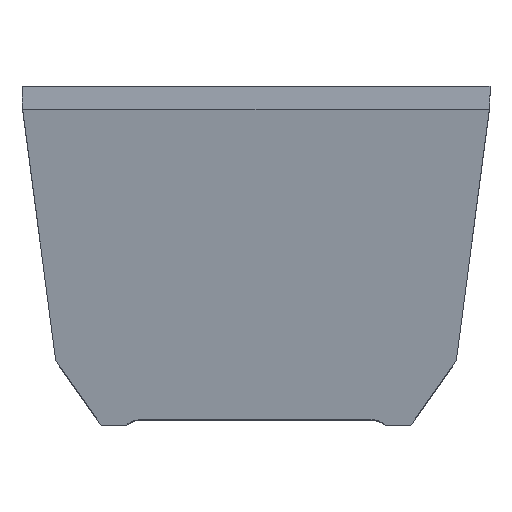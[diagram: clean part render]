
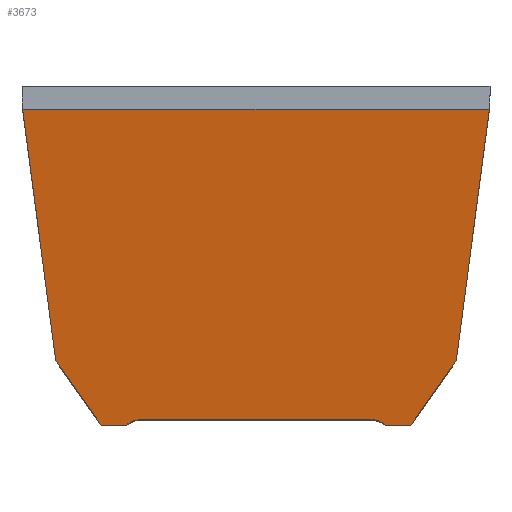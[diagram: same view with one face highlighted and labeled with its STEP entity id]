
A CAD part, top view. The second image highlights one B-rep face of the part: STEP entity #3673.
In plain terms, the highlighted planar face has unit normal (0, -0.147, 0.989).
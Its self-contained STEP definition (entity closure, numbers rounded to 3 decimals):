
#711 = EDGE_LOOP ( 'NONE', ( #2078, #2077, #2076, #2075, #2074, #2073, #2072, #2071, #2070, #2069, #2068, #2067 ) ) ;
#999 = EDGE_CURVE ( 'NONE', #2786, #2473, #2059, .T. ) ;
#1010 = AXIS2_PLACEMENT_3D ( 'NONE', #1662, #1655, #1654 ) ;
#1020 = EDGE_CURVE ( 'NONE', #2341, #2337, #1773, .T. ) ;
#1021 = EDGE_CURVE ( 'NONE', #2472, #2403, #2045, .T. ) ;
#1025 = EDGE_CURVE ( 'NONE', #2660, #2572, #2042, .T. ) ;
#1027 = EDGE_CURVE ( 'NONE', #2500, #2473, #2040, .T. ) ;
#1045 = EDGE_CURVE ( 'NONE', #2572, #2522, #1779, .T. ) ;
#1050 = EDGE_CURVE ( 'NONE', #2403, #2602, #2029, .T. ) ;
#1118 = EDGE_CURVE ( 'NONE', #2472, #2522, #1973, .T. ) ;
#1120 = EDGE_CURVE ( 'NONE', #2500, #2660, #1774, .T. ) ;
#1192 = EDGE_CURVE ( 'NONE', #2602, #2641, #1777, .T. ) ;
#1217 = EDGE_CURVE ( 'NONE', #2641, #2341, #1323, .T. ) ;
#1240 = EDGE_CURVE ( 'NONE', #2337, #2786, #1299, .T. ) ;
#1298 = VECTOR ( 'NONE', #3075, 1000. ) ;
#1299 = LINE ( 'NONE', #3076, #1298 ) ;
#1322 = VECTOR ( 'NONE', #3109, 1000. ) ;
#1323 = LINE ( 'NONE', #3110, #1322 ) ;
#1654 = DIRECTION ( 'NONE',  ( 0., -0.989, -0.147 ) ) ;
#1655 = DIRECTION ( 'NONE',  ( 0., 0.147, -0.989 ) ) ;
#1662 = CARTESIAN_POINT ( 'NONE',  ( -202.173, 56.725, 45.25 ) ) ;
#1666 = PLANE ( 'NONE',  #1010 ) ;
#1773 =( BOUNDED_CURVE ( )  B_SPLINE_CURVE ( 3, ( #2181, #2145, #2135, #2130 ),
 .UNSPECIFIED., .F., .F. ) 
 B_SPLINE_CURVE_WITH_KNOTS ( ( 4, 4 ),
 ( 1.667, 1.702 ),
 .UNSPECIFIED. ) 
 CURVE ( )  GEOMETRIC_REPRESENTATION_ITEM ( )  RATIONAL_B_SPLINE_CURVE ( ( 1., 1., 1., 1. ) ) 
 REPRESENTATION_ITEM ( '' )  );
#1774 =( BOUNDED_CURVE ( )  B_SPLINE_CURVE ( 3, ( #3207, #3203, #3199, #3198 ),
 .UNSPECIFIED., .F., .T. ) 
 B_SPLINE_CURVE_WITH_KNOTS ( ( 4, 4 ),
 ( 5.61, 6.283 ),
 .UNSPECIFIED. ) 
 CURVE ( )  GEOMETRIC_REPRESENTATION_ITEM ( )  RATIONAL_B_SPLINE_CURVE ( ( 1., 0.963, 0.963, 1. ) ) 
 REPRESENTATION_ITEM ( '' )  );
#1777 =( BOUNDED_CURVE ( )  B_SPLINE_CURVE ( 3, ( #3142, #3136, #3135, #3134 ),
 .UNSPECIFIED., .F., .T. ) 
 B_SPLINE_CURVE_WITH_KNOTS ( ( 4, 4 ),
 ( 4.581, 4.616 ),
 .UNSPECIFIED. ) 
 CURVE ( )  GEOMETRIC_REPRESENTATION_ITEM ( )  RATIONAL_B_SPLINE_CURVE ( ( 1., 1., 1., 1. ) ) 
 REPRESENTATION_ITEM ( '' )  );
#1779 =( BOUNDED_CURVE ( )  B_SPLINE_CURVE ( 3, ( #3276, #3272, #3271, #3270 ),
 .UNSPECIFIED., .F., .F. ) 
 B_SPLINE_CURVE_WITH_KNOTS ( ( 4, 4 ),
 ( 0., 0.673 ),
 .UNSPECIFIED. ) 
 CURVE ( )  GEOMETRIC_REPRESENTATION_ITEM ( )  RATIONAL_B_SPLINE_CURVE ( ( 1., 0.963, 0.963, 1. ) ) 
 REPRESENTATION_ITEM ( '' )  );
#1890 = FACE_OUTER_BOUND ( 'NONE', #711, .T. ) ;
#1972 = VECTOR ( 'NONE', #3208, 1000. ) ;
#1973 = LINE ( 'NONE', #3209, #1972 ) ;
#2020 = VECTOR ( 'NONE', #3265, 1000. ) ;
#2029 = LINE ( 'NONE', #3268, #2020 ) ;
#2036 = VECTOR ( 'NONE', #3286, 1000. ) ;
#2040 = LINE ( 'NONE', #3289, #2036 ) ;
#2042 = LINE ( 'NONE', #3291, #2044 ) ;
#2044 = VECTOR ( 'NONE', #3290, 1000. ) ;
#2045 = LINE ( 'NONE', #2155, #2046 ) ;
#2046 = VECTOR ( 'NONE', #3297, 1000. ) ;
#2059 = LINE ( 'NONE', #2265, #2065 ) ;
#2065 = VECTOR ( 'NONE', #2260, 1000. ) ;
#2067 = ORIENTED_EDGE ( 'NONE', *, *, #1192, .F. ) ;
#2068 = ORIENTED_EDGE ( 'NONE', *, *, #1217, .F. ) ;
#2069 = ORIENTED_EDGE ( 'NONE', *, *, #1020, .F. ) ;
#2070 = ORIENTED_EDGE ( 'NONE', *, *, #1240, .F. ) ;
#2071 = ORIENTED_EDGE ( 'NONE', *, *, #999, .F. ) ;
#2072 = ORIENTED_EDGE ( 'NONE', *, *, #1027, .T. ) ;
#2073 = ORIENTED_EDGE ( 'NONE', *, *, #1120, .F. ) ;
#2074 = ORIENTED_EDGE ( 'NONE', *, *, #1025, .F. ) ;
#2075 = ORIENTED_EDGE ( 'NONE', *, *, #1045, .F. ) ;
#2076 = ORIENTED_EDGE ( 'NONE', *, *, #1118, .T. ) ;
#2077 = ORIENTED_EDGE ( 'NONE', *, *, #1021, .F. ) ;
#2078 = ORIENTED_EDGE ( 'NONE', *, *, #1050, .F. ) ;
#2130 = CARTESIAN_POINT ( 'NONE',  ( 44.993, 55.7, 45.098 ) ) ;
#2135 = CARTESIAN_POINT ( 'NONE',  ( 45.038, 56.041, 45.149 ) ) ;
#2145 = CARTESIAN_POINT ( 'NONE',  ( 45.077, 56.383, 45.199 ) ) ;
#2155 = CARTESIAN_POINT ( 'NONE',  ( -38.099, 7.317, 37.928 ) ) ;
#2181 = CARTESIAN_POINT ( 'NONE',  ( 45.11, 56.725, 45.25 ) ) ;
#2260 = DIRECTION ( 'NONE',  ( -0.569, -0.813, -0.121 ) ) ;
#2265 = CARTESIAN_POINT ( 'NONE',  ( 38.099, 7.317, 37.928 ) ) ;
#2337 = VERTEX_POINT ( 'NONE', #3039 ) ;
#2341 = VERTEX_POINT ( 'NONE', #3038 ) ;
#2403 = VERTEX_POINT ( 'NONE', #3014 ) ;
#2472 = VERTEX_POINT ( 'NONE', #2987 ) ;
#2473 = VERTEX_POINT ( 'NONE', #2985 ) ;
#2500 = VERTEX_POINT ( 'NONE', #2972 ) ;
#2522 = VERTEX_POINT ( 'NONE', #2962 ) ;
#2572 = VERTEX_POINT ( 'NONE', #2946 ) ;
#2602 = VERTEX_POINT ( 'NONE', #2937 ) ;
#2641 = VERTEX_POINT ( 'NONE', #2926 ) ;
#2660 = VERTEX_POINT ( 'NONE', #2921 ) ;
#2786 = VERTEX_POINT ( 'NONE', #2881 ) ;
#2881 = CARTESIAN_POINT ( 'NONE',  ( 38.738, 8.23, 38.063 ) ) ;
#2921 = CARTESIAN_POINT ( 'NONE',  ( 22., -3.21, 36.368 ) ) ;
#2926 = CARTESIAN_POINT ( 'NONE',  ( -45.11, 56.725, 45.25 ) ) ;
#2937 = CARTESIAN_POINT ( 'NONE',  ( -44.993, 55.7, 45.098 ) ) ;
#2946 = CARTESIAN_POINT ( 'NONE',  ( -22., -3.21, 36.368 ) ) ;
#2962 = CARTESIAN_POINT ( 'NONE',  ( -25.117, -4.3, 36.206 ) ) ;
#2972 = CARTESIAN_POINT ( 'NONE',  ( 25.117, -4.3, 36.206 ) ) ;
#2985 = CARTESIAN_POINT ( 'NONE',  ( 29.972, -4.3, 36.206 ) ) ;
#2987 = CARTESIAN_POINT ( 'NONE',  ( -29.972, -4.3, 36.206 ) ) ;
#3014 = CARTESIAN_POINT ( 'NONE',  ( -38.738, 8.23, 38.063 ) ) ;
#3038 = CARTESIAN_POINT ( 'NONE',  ( 45.11, 56.725, 45.25 ) ) ;
#3039 = CARTESIAN_POINT ( 'NONE',  ( 44.993, 55.7, 45.098 ) ) ;
#3075 = DIRECTION ( 'NONE',  ( -0.129, -0.981, -0.145 ) ) ;
#3076 = CARTESIAN_POINT ( 'NONE',  ( 44.686, 53.369, 44.753 ) ) ;
#3109 = DIRECTION ( 'NONE',  ( 1., 0., 0. ) ) ;
#3110 = CARTESIAN_POINT ( 'NONE',  ( -15.25, 56.725, 45.25 ) ) ;
#3134 = CARTESIAN_POINT ( 'NONE',  ( -45.11, 56.725, 45.25 ) ) ;
#3135 = CARTESIAN_POINT ( 'NONE',  ( -45.077, 56.383, 45.199 ) ) ;
#3136 = CARTESIAN_POINT ( 'NONE',  ( -45.038, 56.041, 45.149 ) ) ;
#3142 = CARTESIAN_POINT ( 'NONE',  ( -44.993, 55.7, 45.098 ) ) ;
#3198 = CARTESIAN_POINT ( 'NONE',  ( 22., -3.21, 36.368 ) ) ;
#3199 = CARTESIAN_POINT ( 'NONE',  ( 23.144, -3.21, 36.368 ) ) ;
#3203 = CARTESIAN_POINT ( 'NONE',  ( 24.223, -3.587, 36.312 ) ) ;
#3207 = CARTESIAN_POINT ( 'NONE',  ( 25.117, -4.3, 36.206 ) ) ;
#3208 = DIRECTION ( 'NONE',  ( 1., 0., 0. ) ) ;
#3209 = CARTESIAN_POINT ( 'NONE',  ( -202.173, -4.3, 36.206 ) ) ;
#3265 = DIRECTION ( 'NONE',  ( -0.129, 0.981, 0.145 ) ) ;
#3268 = CARTESIAN_POINT ( 'NONE',  ( -44.686, 53.369, 44.753 ) ) ;
#3270 = CARTESIAN_POINT ( 'NONE',  ( -25.117, -4.3, 36.206 ) ) ;
#3271 = CARTESIAN_POINT ( 'NONE',  ( -24.223, -3.587, 36.312 ) ) ;
#3272 = CARTESIAN_POINT ( 'NONE',  ( -23.144, -3.21, 36.368 ) ) ;
#3276 = CARTESIAN_POINT ( 'NONE',  ( -22., -3.21, 36.368 ) ) ;
#3286 = DIRECTION ( 'NONE',  ( 1., 0., 0. ) ) ;
#3289 = CARTESIAN_POINT ( 'NONE',  ( -202.173, -4.3, 36.206 ) ) ;
#3290 = DIRECTION ( 'NONE',  ( -1., 0., 0. ) ) ;
#3291 = CARTESIAN_POINT ( 'NONE',  ( -22., -3.21, 36.368 ) ) ;
#3297 = DIRECTION ( 'NONE',  ( -0.569, 0.813, 0.121 ) ) ;
#3673 = ADVANCED_FACE ( 'NONE', ( #1890 ), #1666, .F. ) ;
